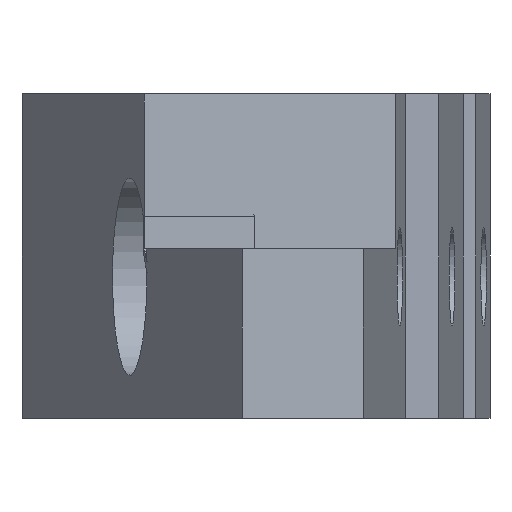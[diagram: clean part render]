
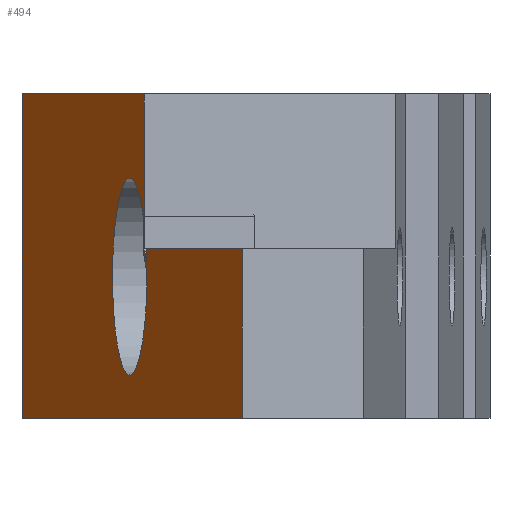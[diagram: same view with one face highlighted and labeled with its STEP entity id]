
A CAD part, left-side view. The second image highlights one B-rep face of the part: STEP entity #494.
In plain terms, the highlighted planar face has unit normal (-0.174, 0.985, 0) as drawn and (1, 0, 0) by its records, which use the part's own axes.
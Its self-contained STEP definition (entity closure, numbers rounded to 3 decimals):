
#38=FACE_BOUND('',#108,.T.);
#44=CIRCLE('',#523,3.5);
#50=CIRCLE('',#537,3.5);
#75=FACE_OUTER_BOUND('',#107,.T.);
#107=EDGE_LOOP('',(#410,#411,#412,#413,#414,#415,#416,#417,#418));
#108=EDGE_LOOP('',(#419,#420,#421));
#118=LINE('',#711,#166);
#122=LINE('',#720,#170);
#126=LINE('',#728,#174);
#133=LINE('',#766,#181);
#143=LINE('',#793,#191);
#155=LINE('',#824,#203);
#156=LINE('',#825,#204);
#157=LINE('',#827,#205);
#158=LINE('',#829,#206);
#159=LINE('',#830,#207);
#166=VECTOR('',#568,10.);
#170=VECTOR('',#574,10.);
#174=VECTOR('',#580,10.);
#181=VECTOR('',#627,10.);
#191=VECTOR('',#651,10.);
#203=VECTOR('',#681,10.);
#204=VECTOR('',#682,10.);
#205=VECTOR('',#683,10.);
#206=VECTOR('',#684,10.);
#207=VECTOR('',#685,10.);
#214=VERTEX_POINT('',#709);
#215=VERTEX_POINT('',#710);
#218=VERTEX_POINT('',#718);
#219=VERTEX_POINT('',#719);
#222=VERTEX_POINT('',#727);
#232=VERTEX_POINT('',#761);
#233=VERTEX_POINT('',#765);
#242=VERTEX_POINT('',#790);
#243=VERTEX_POINT('',#792);
#253=VERTEX_POINT('',#823);
#254=VERTEX_POINT('',#826);
#255=VERTEX_POINT('',#828);
#258=EDGE_CURVE('',#214,#215,#118,.T.);
#262=EDGE_CURVE('',#218,#219,#122,.T.);
#266=EDGE_CURVE('',#222,#218,#126,.T.);
#271=EDGE_CURVE('',#222,#219,#44,.T.);
#282=EDGE_CURVE('',#232,#215,#50,.T.);
#284=EDGE_CURVE('',#232,#233,#133,.T.);
#297=EDGE_CURVE('',#243,#242,#143,.T.);
#313=EDGE_CURVE('',#253,#214,#155,.T.);
#314=EDGE_CURVE('',#253,#243,#156,.T.);
#315=EDGE_CURVE('',#254,#242,#157,.T.);
#316=EDGE_CURVE('',#254,#255,#158,.T.);
#317=EDGE_CURVE('',#233,#255,#159,.T.);
#410=ORIENTED_EDGE('',*,*,#258,.F.);
#411=ORIENTED_EDGE('',*,*,#313,.F.);
#412=ORIENTED_EDGE('',*,*,#314,.T.);
#413=ORIENTED_EDGE('',*,*,#297,.T.);
#414=ORIENTED_EDGE('',*,*,#315,.F.);
#415=ORIENTED_EDGE('',*,*,#316,.T.);
#416=ORIENTED_EDGE('',*,*,#317,.F.);
#417=ORIENTED_EDGE('',*,*,#284,.F.);
#418=ORIENTED_EDGE('',*,*,#282,.T.);
#419=ORIENTED_EDGE('',*,*,#271,.T.);
#420=ORIENTED_EDGE('',*,*,#262,.F.);
#421=ORIENTED_EDGE('',*,*,#266,.F.);
#467=PLANE('',#554);
#494=ADVANCED_FACE('',(#75,#38),#467,.F.);
#523=AXIS2_PLACEMENT_3D('',#737,#591,#592);
#537=AXIS2_PLACEMENT_3D('',#762,#622,#623);
#554=AXIS2_PLACEMENT_3D('',#822,#679,#680);
#568=DIRECTION('',(0.,0.707,0.707));
#574=DIRECTION('',(0.,-1.,0.));
#580=DIRECTION('',(0.,-0.707,-0.707));
#591=DIRECTION('center_axis',(-1.,0.,0.));
#592=DIRECTION('ref_axis',(0.,0.,1.));
#622=DIRECTION('center_axis',(-1.,0.,0.));
#623=DIRECTION('ref_axis',(0.,0.,1.));
#627=DIRECTION('',(0.,0.,1.));
#651=DIRECTION('',(0.,0.,-1.));
#679=DIRECTION('center_axis',(-1.,0.,0.));
#680=DIRECTION('ref_axis',(0.,0.,1.));
#681=DIRECTION('',(0.,1.,0.));
#682=DIRECTION('',(0.,-1.,0.));
#683=DIRECTION('',(0.,-1.,0.));
#684=DIRECTION('',(0.,0.,1.));
#685=DIRECTION('',(0.,1.,0.));
#709=CARTESIAN_POINT('',(-280.,20.018,-10.));
#710=CARTESIAN_POINT('',(-280.,20.479,-9.539));
#711=CARTESIAN_POINT('',(-280.,19.455,-10.563));
#718=CARTESIAN_POINT('',(-280.,20.112,-10.236));
#719=CARTESIAN_POINT('',(-280.,18.853,-10.236));
#720=CARTESIAN_POINT('',(-280.,20.19,-10.236));
#727=CARTESIAN_POINT('',(-280.,20.845,-9.503));
#728=CARTESIAN_POINT('',(-280.,19.951,-10.397));
#737=CARTESIAN_POINT('Origin',(-280.,21.,-13.));
#761=CARTESIAN_POINT('',(-280.,20.018,-9.641));
#762=CARTESIAN_POINT('Origin',(-280.,21.,-13.));
#765=CARTESIAN_POINT('',(-280.,20.018,10.));
#766=CARTESIAN_POINT('',(-280.,20.018,-20.));
#790=CARTESIAN_POINT('',(-280.,14.518,-35.));
#792=CARTESIAN_POINT('',(-280.,14.518,-10.));
#793=CARTESIAN_POINT('',(-280.,14.518,-32.5));
#822=CARTESIAN_POINT('Origin',(-280.,10.018,-35.));
#823=CARTESIAN_POINT('',(-280.,19.197,-10.));
#824=CARTESIAN_POINT('',(-280.,19.733,-10.));
#825=CARTESIAN_POINT('',(-280.,10.018,-10.));
#826=CARTESIAN_POINT('',(-280.,26.018,-35.));
#827=CARTESIAN_POINT('',(-280.,10.018,-35.));
#828=CARTESIAN_POINT('',(-280.,26.018,10.));
#829=CARTESIAN_POINT('',(-280.,26.018,10.));
#830=CARTESIAN_POINT('',(-280.,10.018,10.));
